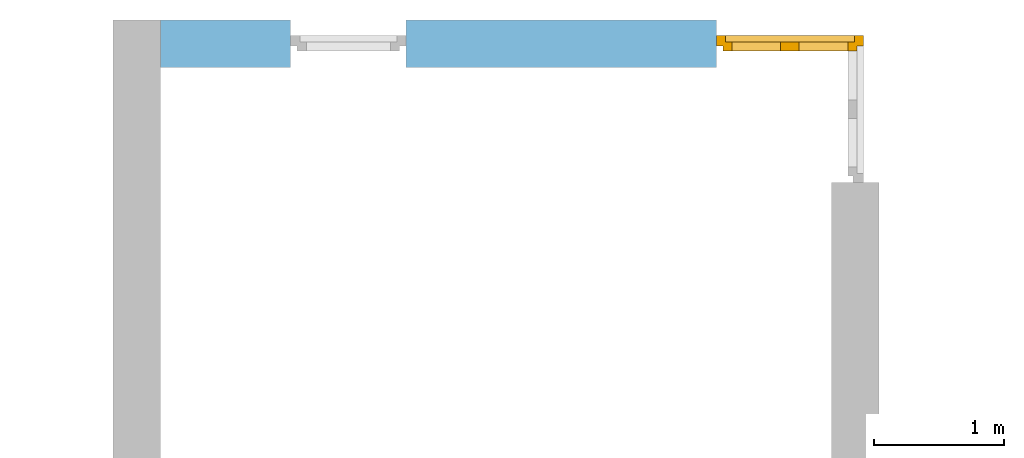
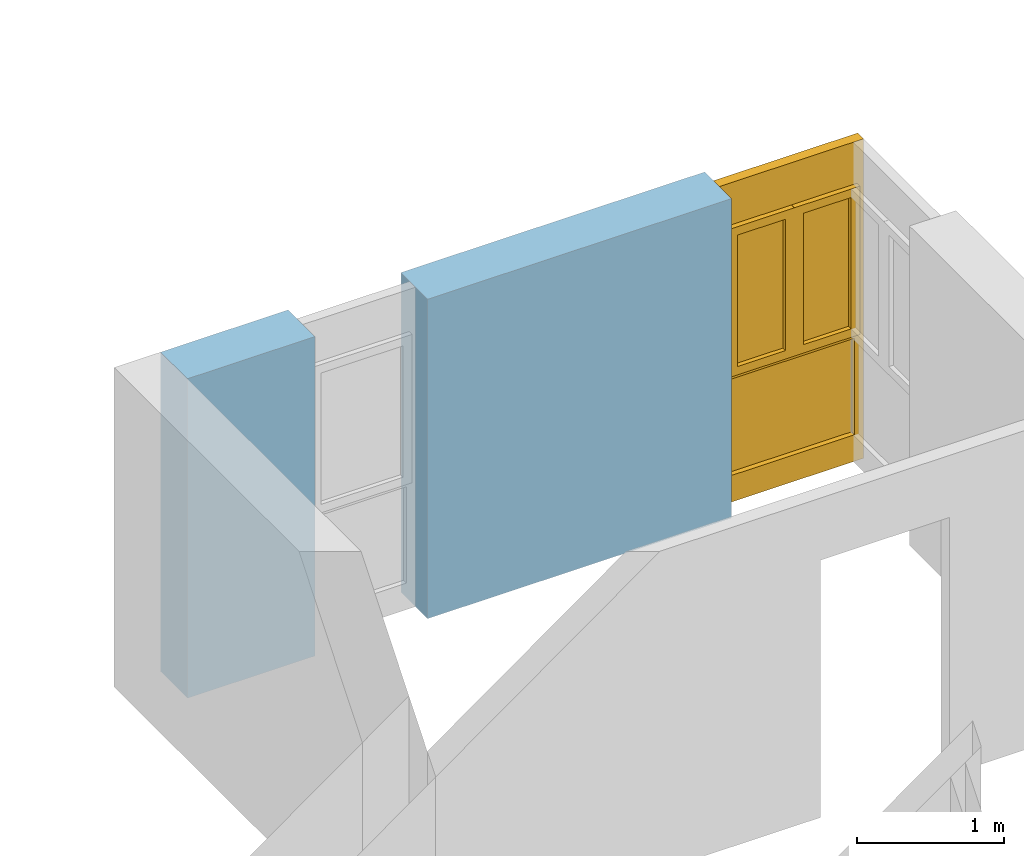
# One storey, part 19 of 42: 1 window, 2 openings, plus 1 element that does not belong to this part.
"""IFC2X3 building model written with IfcOpenShell, lengths in millimetres."""

import ifcopenshell
import ifcopenshell.guid

model = None  # the IFC model being written
_history = None  # IfcOwnerHistory: only IFC2X3 demands one
_inside = {}  # id of a spatial element -> (the spatial element, [elements in it])
_under = {}  # id of a project, library or spatial element -> (it, [spatial elements below it])
_declared = {}  # id of a project -> (the project, [libraries it declares])
_typed = {}  # id of a type object -> (the type object, [elements of that type])
_made_of = {}  # id of a material, layer set ... -> (it, [elements and type objects made of it])


def new_model(schema):
    """Start an empty IFC model of exactly this schema.

    Asked for "IFC4X3", IfcOpenShell would pick the latest addendum, in which some entities
    have other attributes; the version numbers below select the first issue.
    IFC2X3 requires an IfcOwnerHistory on every rooted entity: one is made here for all.
    """
    global model, _history
    if schema == "IFC4X3":
        model = ifcopenshell.file(schema_version=(4, 3, 0, 0))
    else:
        model = ifcopenshell.file(schema=schema)
    _inside.clear()
    _under.clear()
    _declared.clear()
    _typed.clear()
    _made_of.clear()
    _history = None
    if model.schema == "IFC2X3":
        org = make("IfcOrganization", Name="unknown")
        user = make(
            "IfcPersonAndOrganization",
            ThePerson=make("IfcPerson", FamilyName="unknown"),
            TheOrganization=org,
        )
        app = make(
            "IfcApplication",
            ApplicationDeveloper=org,
            Version="unknown",
            ApplicationFullName="unknown",
            ApplicationIdentifier="unknown",
        )
        _history = make(
            "IfcOwnerHistory",
            OwningUser=user,
            OwningApplication=app,
            ChangeAction="ADDED",
            CreationDate=0,
        )
    return model


def make(cls, **values):
    """One entity of the class cls with the attributes given. An attribute that is None is left unset."""
    return model.create_entity(
        cls, **{name: value for name, value in values.items() if value is not None}
    )


def entity(cls, *values):
    """Any entity or typed value of the class cls, its attributes in the order of the schema. None: left unset."""
    e = model.create_entity(cls)
    for i, value in enumerate(values):
        if value is not None:
            e[i] = value
    return e


def rooted(cls, **values):
    """An entity with a GlobalId (a new one), such as an element, a storey or a relation."""
    return make(cls, GlobalId=ifcopenshell.guid.new(), OwnerHistory=_history, **values)


def si_unit(unit_type, name, prefix=None):
    """IfcSIUnit, for example si_unit("LENGTHUNIT", "METRE", prefix="MILLI")."""
    return make("IfcSIUnit", UnitType=unit_type, Prefix=prefix, Name=name)


def converted_unit(unit_type, name, factor, base, dimensions=None, offset=None):
    """IfcConversionBasedUnit, such as the inch: factor (a typed value) times the base unit."""
    return make(
        "IfcConversionBasedUnit"
        if offset is None
        else "IfcConversionBasedUnitWithOffset",
        ConversionOffset=offset,
        Dimensions=None
        if dimensions is None
        else entity("IfcDimensionalExponents", *dimensions),
        UnitType=unit_type,
        Name=name,
        ConversionFactor=make(
            "IfcMeasureWithUnit", ValueComponent=factor, UnitComponent=base
        ),
    )


def assignment(units):
    """IfcUnitAssignment: the units of a project."""
    return None if units is None else make("IfcUnitAssignment", Units=units)


def point(xyz):
    """IfcCartesianPoint."""
    return None if xyz is None else make("IfcCartesianPoint", Coordinates=xyz)


def direction(xyz):
    """IfcDirection."""
    return None if xyz is None else make("IfcDirection", DirectionRatios=xyz)


def frame(location, z_axis=None, x_axis=None):
    """IfcAxis2Placement3D, a coordinate frame: its origin and axes. An axis left out is left unset."""
    return make(
        "IfcAxis2Placement3D",
        Location=point(location),
        Axis=direction(z_axis),
        RefDirection=direction(x_axis),
    )


def frame_2d(location, x_axis=None):
    """IfcAxis2Placement2D, a coordinate frame in the plane: its origin and x axis."""
    return make(
        "IfcAxis2Placement2D", Location=point(location), RefDirection=direction(x_axis)
    )


def origin():
    """The frame at (0, 0, 0) with its axes left unset."""
    return frame((0.0, 0.0, 0.0))


def origin_with_axes():
    """The frame at (0, 0, 0) with the z axis (0, 0, 1) and the x axis (1, 0, 0) written out."""
    return frame((0.0, 0.0, 0.0), z_axis=(0.0, 0.0, 1.0), x_axis=(1.0, 0.0, 0.0))


def place(relative_to, where):
    """IfcLocalPlacement: puts the frame where relative to a parent placement (None: the world)."""
    return make(
        "IfcLocalPlacement", PlacementRelTo=relative_to, RelativePlacement=where
    )


def context(
    kind, dimensions, precision=None, world=None, true_north=None, identifier=None
):
    """IfcGeometricRepresentationContext, for example the 3D "Model" context."""
    return make(
        "IfcGeometricRepresentationContext",
        ContextIdentifier=identifier,
        ContextType=kind,
        CoordinateSpaceDimension=dimensions,
        Precision=precision,
        WorldCoordinateSystem=world,
        TrueNorth=true_north,
    )


def subcontext(parent, identifier, kind, view, scale=None):
    """IfcGeometricRepresentationSubContext, for example "Body" below "Model"."""
    return make(
        "IfcGeometricRepresentationSubContext",
        ContextIdentifier=identifier,
        ContextType=kind,
        ParentContext=parent,
        TargetScale=scale,
        TargetView=view,
    )


def project(units=None, contexts=None):
    """IfcProject with its units and contexts."""
    return rooted(
        "IfcProject",
        Name="project",
        RepresentationContexts=contexts,
        UnitsInContext=assignment(units),
    )


def spatial(cls, under=None, at=None, **own):
    """A site, building, storey or space (cls), placed at a placement, below another one or the project."""
    s = rooted(cls, ObjectPlacement=at, **own)
    if under is not None:
        _under.setdefault(under.id(), (under, []))[1].append(s)
    return s


def profile(cls, at=None, kind="AREA", **sizes):
    """A parametric profile (cls). Its sizes go by their IFC names, for example OverallWidth=200.0."""
    return make(cls, ProfileType=kind, Position=at, **sizes)


def rectangle(**sizes):
    """IfcRectangleProfileDef."""
    return profile("IfcRectangleProfileDef", **sizes)


def extrude(swept, where, along, depth):
    """IfcExtrudedAreaSolid: the profile swept, set in the frame where, extruded along a direction by depth."""
    return make(
        "IfcExtrudedAreaSolid",
        SweptArea=swept,
        Position=where,
        ExtrudedDirection=direction(along),
        Depth=depth,
    )


def faces_of(points, faces, orient=None, outer=None):
    """IfcFace entities. A face is a list of loops; a loop is a list of indices into points, from 0.

    orient and outer hold one flag for each loop. By default every Orientation is true, the
    first loop of a face is its IfcFaceOuterBound and the others are IfcFaceBound.
    """
    made = []
    for i, loops in enumerate(faces):
        bounds = []
        for j, loop in enumerate(loops):
            is_outer = j == 0 if outer is None else outer[i][j]
            bounds.append(
                make(
                    "IfcFaceOuterBound" if is_outer else "IfcFaceBound",
                    Bound=make("IfcPolyLoop", Polygon=[points[k] for k in loop]),
                    Orientation=True if orient is None else orient[i][j],
                )
            )
        made.append(make("IfcFace", Bounds=bounds))
    return made


def faceted_brep(points, faces, orient=None, outer=None, voids=None):
    """IfcFacetedBrep: a solid bounded by flat faces; with voids (closed shells), ...WithVoids."""
    shared = [point(p) for p in points]
    hull = make("IfcClosedShell", CfsFaces=faces_of(shared, faces, orient, outer))
    if voids is None:
        return make("IfcFacetedBrep", Outer=hull)
    return make(
        "IfcFacetedBrepWithVoids",
        Outer=hull,
        Voids=[
            make(cls, CfsFaces=faces_of(shared, fs, o, b)) for cls, fs, o, b in voids
        ],
    )


def shape(context_of_items, identifier, shape_type, items):
    """IfcShapeRepresentation: the items that make up one representation, for example the "Body"."""
    return make(
        "IfcShapeRepresentation",
        ContextOfItems=context_of_items,
        RepresentationIdentifier=identifier,
        RepresentationType=shape_type,
        Items=items,
    )


def material(Name=None, Category=None):
    """IfcMaterial."""
    return make("IfcMaterial", Name=Name, Category=Category)


def layer(
    of_material, thickness, ventilated=None, Name=None, Category=None, Priority=None
):
    """IfcMaterialLayer: one layer of a wall or slab, of a material (None: an air gap)."""
    return make(
        "IfcMaterialLayer",
        Material=of_material,
        LayerThickness=thickness,
        IsVentilated=ventilated,
        Name=Name,
        Category=Category,
        Priority=Priority,
    )


def layer_set(layers, Name=None):
    """IfcMaterialLayerSet."""
    return make("IfcMaterialLayerSet", MaterialLayers=layers, LayerSetName=Name)


def layer_usage(for_layer_set, set_direction, sense, offset, extent=None):
    """IfcMaterialLayerSetUsage: how a layer set lies in its element."""
    return make(
        "IfcMaterialLayerSetUsage",
        ForLayerSet=for_layer_set,
        LayerSetDirection=set_direction,
        DirectionSense=sense,
        OffsetFromReferenceLine=offset,
        ReferenceExtent=extent,
    )


def made_of(thing, what):
    """Note that an element or type object is made of a material, layer set ...; save() writes the relation."""
    if what is not None:
        _made_of.setdefault(what.id(), (what, []))[1].append(thing)
    return thing


def type_object(cls, material=None, **own):
    """A type object (cls), such as IfcWallType, which elements share."""
    return made_of(rooted(cls, **own), material)


def element(
    cls,
    number,
    at=None,
    inside=None,
    cuts=None,
    type_object=None,
    material=None,
    context=None,
    identifier="Body",
    shape_type=None,
    held_by="IfcProductDefinitionShape",
    body=None,
    shapes=None,
    **own,
):
    """One element of the class cls, such as IfcWall. Its Tag is "e" and its number.

    at: its placement. inside: the storey or other place that contains it. cuts: it is an
    opening in that element (IfcRelVoidsElement). A single representation is given by context,
    identifier, shape_type and body (its items); several are given by shapes. held_by: the class
    of the entity that holds the representations. save() writes the other relations.
    """
    e = rooted(cls, Tag="e%d" % number, ObjectPlacement=at, **own)
    if body is not None:
        shapes = [shape(context, identifier, shape_type, body)]
    if shapes is not None:
        e.Representation = make(held_by, Representations=shapes)
    if inside is not None:
        _inside.setdefault(inside.id(), (inside, []))[1].append(e)
    if cuts is not None:
        rooted(
            "IfcRelVoidsElement", RelatingBuildingElement=cuts, RelatedOpeningElement=e
        )
    if type_object is not None:
        _typed.setdefault(type_object.id(), (type_object, []))[1].append(e)
    return made_of(e, material)


def fill(opening, filler):
    """IfcRelFillsElement: the door or window that sits in an opening."""
    return rooted(
        "IfcRelFillsElement",
        RelatingOpeningElement=opening,
        RelatedBuildingElement=filler,
    )


def aggregate(whole, parts):
    """IfcRelAggregates: a whole, such as a stair, and the parts it consists of."""
    return rooted("IfcRelAggregates", RelatingObject=whole, RelatedObjects=parts)


def save(model, path):
    """Write the relations noted so far, then the file.

    IfcRelAggregates (storeys below a building ...), IfcRelContainedInSpatialStructure (elements
    in a storey), IfcRelDefinesByType, IfcRelAssociatesMaterial and IfcRelDeclares: one each for
    every whole, place, type object, material and project.
    """
    for whole, parts in _under.values():
        aggregate(whole, parts)
    for where, things in _inside.values():
        rooted(
            "IfcRelContainedInSpatialStructure",
            RelatedElements=things,
            RelatingStructure=where,
        )
    for kind, things in _typed.values():
        rooted("IfcRelDefinesByType", RelatedObjects=things, RelatingType=kind)
    for what, things in _made_of.values():
        rooted("IfcRelAssociatesMaterial", RelatedObjects=things, RelatingMaterial=what)
    for by, libraries in _declared.values():
        rooted("IfcRelDeclares", RelatingContext=by, RelatedDefinitions=libraries)
    model.write(path)


model = new_model("IFC2X3")

# Units and contexts
model_context = context("Model", 3, precision=1e-05, world=origin())
body_context = subcontext(model_context, "Body", "Model", "MODEL_VIEW")
ifc_project = project(units=[si_unit("LENGTHUNIT", "METRE", prefix="MILLI"), converted_unit("PLANEANGLEUNIT", "DEGREE", entity("IfcPlaneAngleMeasure", 0.0174532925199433), si_unit("PLANEANGLEUNIT", "RADIAN"), dimensions=[0, 0, 0, 0, 0, 0, 0]), si_unit("AREAUNIT", "SQUARE_METRE"), si_unit("VOLUMEUNIT", "CUBIC_METRE")], contexts=[model_context])

# Building, storey
building_placement = place(None, origin())
building = spatial("IfcBuilding", under=ifc_project, at=building_placement, Name="Gebäude", CompositionType="ELEMENT")
storey_placement = place(building_placement, frame((0.0, 0.0, 2730.0), z_axis=(0.0, 0.0, 1.0), x_axis=(1.0, 0.0, 0.0)))
storey = spatial("IfcBuildingStorey", under=building, at=storey_placement, Name="OG.- Grundriss", CompositionType="ELEMENT", Elevation=2730.0)

# Wall, openings, window
ifc_material_1 = material(Name="Poroton")
ifc_layer = layer(ifc_material_1, 365.0000000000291)
ifc_layer_set = layer_set([ifc_layer])
ifc_layer_usage = layer_usage(ifc_layer_set, "AXIS2", "POSITIVE", 0.0)
wall_placement = place(storey_placement, frame((154222.7928067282, 139284.8877324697, 0.0), z_axis=(0.0, 0.0, 1.0), x_axis=(0.9999999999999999, 0.0, 0.0)))
wall = element("IfcWallStandardCase", 1, at=wall_placement, inside=storey, material=ifc_layer_usage, Name="<Unnamed Element>", context=body_context, shape_type="SweptSolid", body=[
    extrude(rectangle(XDim=5520.000000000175, YDim=365.0000000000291, at=frame_2d((2760.000000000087, 182.5000000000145), x_axis=(1.0, 0.0))), origin_with_axes(), (0.0, 0.0, 1.0), 2650.0),
])
opening_1_placement = place(wall_placement, frame((4270.000000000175, 0.0, 0.0), z_axis=(0.0, 1.0, 0.0), x_axis=(0.0, 0.0, 1.0)))
opening_1 = element("IfcOpeningElement", 2, at=opening_1_placement, cuts=wall, Name="Fensteröffnung", ObjectType="Opening", context=body_context, shape_type="Brep", body=[
    faceted_brep([(0.0, 884.9999999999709, -884.9999999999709), (0.0, 1250.0, -884.9999999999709), (0.0, 1250.0, 365.0000000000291), (0.0, 0.0, 365.0000000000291), (0.0, 0.0, 0.0), (0.0, 884.9999999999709, 0.0), (2650.0, 1250.0, -884.9999999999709), (2650.0, 884.9999999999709, -884.9999999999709), (2650.0, 884.9999999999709, 0.0), (2650.0, 0.0, 0.0), (2650.0, 0.0, 365.0000000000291), (2650.0, 1250.0, 365.0000000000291), (0.0, 0.0, 365.0000000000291), (0.0, 1250.0, 365.0000000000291), (2650.0, 1250.0, 365.0000000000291), (2650.0, 0.0, 365.0000000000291), (0.0, 0.0, 0.0), (0.0, 0.0, 365.0000000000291), (2650.0, 0.0, 365.0000000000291), (2650.0, 0.0, 0.0), (0.0, 884.9999999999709, 0.0), (0.0, 0.0, 0.0), (2650.0, 0.0, 0.0), (2650.0, 884.9999999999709, 0.0), (0.0, 1250.0, -884.9999999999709), (0.0, 884.9999999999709, -884.9999999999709), (2650.0, 884.9999999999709, -884.9999999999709), (2650.0, 1250.0, -884.9999999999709), (0.0, 1250.0, 365.0000000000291), (0.0, 1250.0, -884.9999999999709), (2650.0, 1250.0, -884.9999999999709), (2650.0, 1250.0, 365.0000000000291), (0.0, 884.9999999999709, -884.9999999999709), (0.0, 884.9999999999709, 0.0), (2650.0, 884.9999999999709, 0.0), (2650.0, 884.9999999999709, -884.9999999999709)], [[[0, 1, 2, 3, 4, 5]], [[6, 7, 8, 9, 10, 11]], [[12, 13, 14, 15]], [[16, 17, 18, 19]], [[20, 21, 22, 23]], [[24, 25, 26, 27]], [[28, 29, 30, 31]], [[32, 33, 34, 35]]], orient=[[False], [False], [False], [False], [False], [False], [False], [False]]),
])
opening_2_placement = place(wall_placement, frame((999.9999999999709, 0.0, 0.0), z_axis=(0.0, 1.0, 0.0), x_axis=(0.0, 0.0, 1.0)))
element("IfcOpeningElement", 3, at=opening_2_placement, cuts=wall, Name="Fensteröffnung", ObjectType="Opening", context=body_context, shape_type="SweptSolid", body=[
    extrude(rectangle(XDim=2650.0, YDim=885.0, at=frame_2d((1325.0, 442.5), x_axis=(1.0, 0.0))), origin_with_axes(), (0.0, 0.0, 1.0), 365.0000000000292),
])
ifc_material_2 = material()
window_style = type_object("IfcWindowStyle", Name="Fenster", ConstructionType="NOTDEFINED", OperationType="USERDEFINED", ParameterTakesPrecedence=False, Sizeable=False)
window_placement = place(opening_1_placement, frame((0.0, 0.0, 0.0), z_axis=(1.0, 0.0, 0.0), x_axis=(0.0, 1.0, 0.0)))
window = element("IfcWindow", 4, at=window_placement, inside=storey, type_object=window_style, material=ifc_material_2, Name="Fenster", OverallHeight=2650.0, OverallWidth=1067.5, context=body_context, shape_type="Brep", body=[
    faceted_brep([(1130.0, 165.0000000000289, 2650.0), (1130.0, 165.0000000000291, -2.449293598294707e-15), (1060.0, 165.0000000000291, -2.449293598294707e-15), (1060.0, 165.000000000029, 2650.0), (1130.0, 245.0000000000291, 2.449293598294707e-15), (1130.0, 245.0000000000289, 2650.0), (1060.0, 245.000000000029, 2650.0), (1060.0, 245.0000000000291, 2.449293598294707e-15), (1130.0, 165.0000000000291, -2.449293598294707e-15), (1130.0, 165.0000000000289, 2650.0), (1130.0, 245.0000000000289, 2650.0), (1130.0, 245.0000000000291, 2.449293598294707e-15), (1060.0, 165.0000000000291, -2.449293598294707e-15), (1130.0, 165.0000000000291, -2.449293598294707e-15), (1130.0, 245.0000000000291, 2.449293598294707e-15), (1060.0, 245.0000000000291, 2.449293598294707e-15), (1060.0, 165.000000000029, 2650.0), (1060.0, 165.0000000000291, -2.449293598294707e-15), (1060.0, 245.0000000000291, 2.449293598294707e-15), (1060.0, 245.000000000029, 2650.0), (1130.0, 165.0000000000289, 2650.0), (1060.0, 165.000000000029, 2650.0), (1060.0, 245.000000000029, 2650.0), (1130.0, 245.0000000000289, 2650.0)], [[[0, 1, 2, 3]], [[4, 5, 6, 7]], [[8, 9, 10, 11]], [[12, 13, 14, 15]], [[16, 17, 18, 19]], [[20, 21, 22, 23]]], orient=[[False], [False], [False], [False], [False], [False]]),
    faceted_brep([(70.00000000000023, 165.0000000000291, 2650.0), (70.00000000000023, 165.0000000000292, -2.449293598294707e-15), (2.273736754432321e-13, 165.0000000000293, -2.449293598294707e-15), (2.273736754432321e-13, 165.0000000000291, 2650.0), (70.00000000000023, 245.0000000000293, 2.449293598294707e-15), (70.00000000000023, 245.0000000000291, 2650.0), (2.273736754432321e-13, 245.0000000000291, 2650.0), (2.273736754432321e-13, 245.0000000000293, 2.449293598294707e-15), (70.00000000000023, 165.0000000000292, -2.449293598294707e-15), (70.00000000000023, 165.0000000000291, 2650.0), (70.00000000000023, 245.0000000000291, 2650.0), (70.00000000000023, 245.0000000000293, 2.449293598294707e-15), (2.273736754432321e-13, 165.0000000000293, -2.449293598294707e-15), (70.00000000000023, 165.0000000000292, -2.449293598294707e-15), (70.00000000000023, 245.0000000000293, 2.449293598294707e-15), (2.273736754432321e-13, 245.0000000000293, 2.449293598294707e-15), (2.273736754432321e-13, 165.0000000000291, 2650.0), (2.273736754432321e-13, 165.0000000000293, -2.449293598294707e-15), (2.273736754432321e-13, 245.0000000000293, 2.449293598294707e-15), (2.273736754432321e-13, 245.0000000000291, 2650.0), (70.00000000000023, 165.0000000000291, 2650.0), (2.273736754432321e-13, 165.0000000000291, 2650.0), (2.273736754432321e-13, 245.0000000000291, 2650.0), (70.00000000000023, 245.0000000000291, 2650.0)], [[[0, 1, 2, 3]], [[4, 5, 6, 7]], [[8, 9, 10, 11]], [[12, 13, 14, 15]], [[16, 17, 18, 19]], [[20, 21, 22, 23]]], orient=[[False], [False], [False], [False], [False], [False]]),
    faceted_brep([(1060.0, 165.0000000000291, 220.0), (1060.0, 165.0000000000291, -2.449293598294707e-15), (70.00000000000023, 165.0000000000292, -2.449293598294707e-15), (70.00000000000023, 165.0000000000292, 220.0), (1060.0, 245.0000000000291, 2.449293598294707e-15), (1060.0, 245.0000000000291, 220.0), (70.00000000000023, 245.0000000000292, 220.0), (70.00000000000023, 245.0000000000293, 2.449293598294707e-15), (1060.0, 165.0000000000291, -2.449293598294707e-15), (1060.0, 165.0000000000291, 220.0), (1060.0, 245.0000000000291, 220.0), (1060.0, 245.0000000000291, 2.449293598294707e-15), (70.00000000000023, 165.0000000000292, -2.449293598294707e-15), (1060.0, 165.0000000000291, -2.449293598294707e-15), (1060.0, 245.0000000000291, 2.449293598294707e-15), (70.00000000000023, 245.0000000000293, 2.449293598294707e-15), (70.00000000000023, 165.0000000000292, 220.0), (70.00000000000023, 165.0000000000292, -2.449293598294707e-15), (70.00000000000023, 245.0000000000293, 2.449293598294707e-15), (70.00000000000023, 245.0000000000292, 220.0), (1060.0, 165.0000000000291, 220.0), (70.00000000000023, 165.0000000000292, 220.0), (70.00000000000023, 245.0000000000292, 220.0), (1060.0, 245.0000000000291, 220.0)], [[[0, 1, 2, 3]], [[4, 5, 6, 7]], [[8, 9, 10, 11]], [[12, 13, 14, 15]], [[16, 17, 18, 19]], [[20, 21, 22, 23]]], orient=[[False], [False], [False], [False], [False], [False]]),
    faceted_brep([(1060.0, 165.0000000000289, 2650.0), (1060.0, 165.000000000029, 2280.0), (70.00000000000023, 165.0000000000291, 2280.0), (70.00000000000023, 165.0000000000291, 2650.0), (1060.0, 245.000000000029, 2280.0), (1060.0, 245.0000000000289, 2650.0), (70.00000000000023, 245.0000000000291, 2650.0), (70.00000000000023, 245.0000000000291, 2280.0), (1060.0, 165.000000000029, 2280.0), (1060.0, 165.0000000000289, 2650.0), (1060.0, 245.0000000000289, 2650.0), (1060.0, 245.000000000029, 2280.0), (70.00000000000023, 165.0000000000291, 2280.0), (1060.0, 165.000000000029, 2280.0), (1060.0, 245.000000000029, 2280.0), (70.00000000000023, 245.0000000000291, 2280.0), (70.00000000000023, 165.0000000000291, 2650.0), (70.00000000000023, 165.0000000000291, 2280.0), (70.00000000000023, 245.0000000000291, 2280.0), (70.00000000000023, 245.0000000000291, 2650.0), (1060.0, 165.0000000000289, 2650.0), (70.00000000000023, 165.0000000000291, 2650.0), (70.00000000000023, 245.0000000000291, 2650.0), (1060.0, 245.0000000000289, 2650.0)], [[[0, 1, 2, 3]], [[4, 5, 6, 7]], [[8, 9, 10, 11]], [[12, 13, 14, 15]], [[16, 17, 18, 19]], [[20, 21, 22, 23]]], orient=[[False], [False], [False], [False], [False], [False]]),
    faceted_brep([(1060.0, 165.0000000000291, 1090.0), (1060.0, 165.0000000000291, 1020.0), (70.00000000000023, 165.0000000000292, 1020.0), (70.00000000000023, 165.0000000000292, 1090.0), (1060.0, 245.0000000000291, 1020.0), (1060.0, 245.0000000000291, 1090.0), (70.00000000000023, 245.0000000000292, 1090.0), (70.00000000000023, 245.0000000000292, 1020.0), (1060.0, 165.0000000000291, 1020.0), (1060.0, 165.0000000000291, 1090.0), (1060.0, 245.0000000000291, 1090.0), (1060.0, 245.0000000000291, 1020.0), (70.00000000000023, 165.0000000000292, 1020.0), (1060.0, 165.0000000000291, 1020.0), (1060.0, 245.0000000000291, 1020.0), (70.00000000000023, 245.0000000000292, 1020.0), (70.00000000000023, 165.0000000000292, 1090.0), (70.00000000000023, 165.0000000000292, 1020.0), (70.00000000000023, 245.0000000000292, 1020.0), (70.00000000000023, 245.0000000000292, 1090.0), (1060.0, 165.0000000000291, 1090.0), (70.00000000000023, 165.0000000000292, 1090.0), (70.00000000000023, 245.0000000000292, 1090.0), (1060.0, 245.0000000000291, 1090.0)], [[[0, 1, 2, 3]], [[4, 5, 6, 7]], [[8, 9, 10, 11]], [[12, 13, 14, 15]], [[16, 17, 18, 19]], [[20, 21, 22, 23]]], orient=[[False], [False], [False], [False], [False], [False]]),
    faceted_brep([(1060.0, 205.0000000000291, 220.0), (70.00000000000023, 205.0000000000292, 220.0), (70.00000000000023, 205.0000000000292, 1020.0), (1060.0, 205.0000000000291, 1020.0), (1060.0, 206.0000000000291, 220.0), (1060.0, 206.0000000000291, 1020.0), (70.00000000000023, 206.0000000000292, 1020.0), (70.00000000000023, 206.0000000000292, 220.0), (1060.0, 205.0000000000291, 220.0), (1060.0, 206.0000000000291, 220.0), (70.00000000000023, 206.0000000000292, 220.0), (70.00000000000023, 205.0000000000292, 220.0), (70.00000000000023, 205.0000000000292, 220.0), (70.00000000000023, 206.0000000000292, 220.0), (70.00000000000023, 206.0000000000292, 1020.0), (70.00000000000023, 205.0000000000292, 1020.0), (70.00000000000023, 205.0000000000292, 1020.0), (70.00000000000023, 206.0000000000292, 1020.0), (1060.0, 206.0000000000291, 1020.0), (1060.0, 205.0000000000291, 1020.0), (1060.0, 205.0000000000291, 1020.0), (1060.0, 206.0000000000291, 1020.0), (1060.0, 206.0000000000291, 220.0), (1060.0, 205.0000000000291, 220.0)], [[[0, 1, 2, 3]], [[4, 5, 6, 7]], [[8, 9, 10, 11]], [[12, 13, 14, 15]], [[16, 17, 18, 19]], [[20, 21, 22, 23]]], orient=[[False], [False], [False], [False], [False], [False]]),
    faceted_brep([(1080.0, 125.000000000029, 2300.0), (1080.0, 125.0000000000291, 1070.0), (1010.0, 125.0000000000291, 1070.0), (1010.0, 125.000000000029, 2300.0), (1080.0, 195.0000000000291, 1070.0), (1080.0, 195.000000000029, 2300.0), (1010.0, 195.000000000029, 2300.0), (1010.0, 195.0000000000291, 1070.0), (1080.0, 125.0000000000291, 1070.0), (1080.0, 125.000000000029, 2300.0), (1080.0, 195.000000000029, 2300.0), (1080.0, 195.0000000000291, 1070.0), (1010.0, 125.0000000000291, 1070.0), (1080.0, 125.0000000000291, 1070.0), (1080.0, 195.0000000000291, 1070.0), (1010.0, 195.0000000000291, 1070.0), (1010.0, 125.000000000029, 2300.0), (1010.0, 125.0000000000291, 1070.0), (1010.0, 195.0000000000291, 1070.0), (1010.0, 195.000000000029, 2300.0), (1080.0, 125.000000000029, 2300.0), (1010.0, 125.000000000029, 2300.0), (1010.0, 195.000000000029, 2300.0), (1080.0, 195.000000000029, 2300.0)], [[[0, 1, 2, 3]], [[4, 5, 6, 7]], [[8, 9, 10, 11]], [[12, 13, 14, 15]], [[16, 17, 18, 19]], [[20, 21, 22, 23]]], orient=[[False], [False], [False], [False], [False], [False]]),
    faceted_brep([(635.5000000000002, 125.000000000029, 2300.0), (635.5000000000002, 125.0000000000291, 1070.0), (565.5000000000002, 125.0000000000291, 1070.0), (565.5000000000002, 125.0000000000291, 2300.0), (635.5000000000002, 195.0000000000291, 1070.0), (635.5000000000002, 195.0000000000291, 2300.0), (565.5000000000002, 195.0000000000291, 2300.0), (565.5000000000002, 195.0000000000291, 1070.0), (635.5000000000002, 125.0000000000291, 1070.0), (635.5000000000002, 125.000000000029, 2300.0), (635.5000000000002, 195.0000000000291, 2300.0), (635.5000000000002, 195.0000000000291, 1070.0), (565.5000000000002, 125.0000000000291, 1070.0), (635.5000000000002, 125.0000000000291, 1070.0), (635.5000000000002, 195.0000000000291, 1070.0), (565.5000000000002, 195.0000000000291, 1070.0), (565.5000000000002, 125.0000000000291, 2300.0), (565.5000000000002, 125.0000000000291, 1070.0), (565.5000000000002, 195.0000000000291, 1070.0), (565.5000000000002, 195.0000000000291, 2300.0), (635.5000000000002, 125.000000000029, 2300.0), (565.5000000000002, 125.0000000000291, 2300.0), (565.5000000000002, 195.0000000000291, 2300.0), (635.5000000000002, 195.0000000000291, 2300.0)], [[[0, 1, 2, 3]], [[4, 5, 6, 7]], [[8, 9, 10, 11]], [[12, 13, 14, 15]], [[16, 17, 18, 19]], [[20, 21, 22, 23]]], orient=[[False], [False], [False], [False], [False], [False]]),
    faceted_brep([(1010.0, 125.0000000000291, 1140.0), (1010.0, 125.0000000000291, 1070.0), (635.5000000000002, 125.0000000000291, 1070.0), (635.5000000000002, 125.0000000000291, 1140.0), (1010.0, 195.0000000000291, 1070.0), (1010.0, 195.0000000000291, 1140.0), (635.5000000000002, 195.0000000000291, 1140.0), (635.5000000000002, 195.0000000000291, 1070.0), (1010.0, 125.0000000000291, 1070.0), (1010.0, 125.0000000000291, 1140.0), (1010.0, 195.0000000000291, 1140.0), (1010.0, 195.0000000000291, 1070.0), (635.5000000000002, 125.0000000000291, 1070.0), (1010.0, 125.0000000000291, 1070.0), (1010.0, 195.0000000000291, 1070.0), (635.5000000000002, 195.0000000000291, 1070.0), (635.5000000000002, 125.0000000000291, 1140.0), (635.5000000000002, 125.0000000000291, 1070.0), (635.5000000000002, 195.0000000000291, 1070.0), (635.5000000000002, 195.0000000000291, 1140.0), (1010.0, 125.0000000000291, 1140.0), (635.5000000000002, 125.0000000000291, 1140.0), (635.5000000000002, 195.0000000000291, 1140.0), (1010.0, 195.0000000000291, 1140.0)], [[[0, 1, 2, 3]], [[4, 5, 6, 7]], [[8, 9, 10, 11]], [[12, 13, 14, 15]], [[16, 17, 18, 19]], [[20, 21, 22, 23]]], orient=[[False], [False], [False], [False], [False], [False]]),
    faceted_brep([(1010.0, 125.000000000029, 2300.0), (1010.0, 125.000000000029, 2230.0), (635.5000000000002, 125.000000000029, 2230.0), (635.5000000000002, 125.000000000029, 2300.0), (1010.0, 195.000000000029, 2230.0), (1010.0, 195.000000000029, 2300.0), (635.5000000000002, 195.0000000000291, 2300.0), (635.5000000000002, 195.0000000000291, 2230.0), (1010.0, 125.000000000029, 2230.0), (1010.0, 125.000000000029, 2300.0), (1010.0, 195.000000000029, 2300.0), (1010.0, 195.000000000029, 2230.0), (635.5000000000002, 125.000000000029, 2230.0), (1010.0, 125.000000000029, 2230.0), (1010.0, 195.000000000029, 2230.0), (635.5000000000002, 195.0000000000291, 2230.0), (635.5000000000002, 125.000000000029, 2300.0), (635.5000000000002, 125.000000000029, 2230.0), (635.5000000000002, 195.0000000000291, 2230.0), (635.5000000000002, 195.0000000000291, 2300.0), (1010.0, 125.000000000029, 2300.0), (635.5000000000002, 125.000000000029, 2300.0), (635.5000000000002, 195.0000000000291, 2300.0), (1010.0, 195.000000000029, 2300.0)], [[[0, 1, 2, 3]], [[4, 5, 6, 7]], [[8, 9, 10, 11]], [[12, 13, 14, 15]], [[16, 17, 18, 19]], [[20, 21, 22, 23]]], orient=[[False], [False], [False], [False], [False], [False]]),
    faceted_brep([(564.5000000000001, 125.0000000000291, 2300.0), (564.5000000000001, 125.0000000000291, 1070.0), (494.5000000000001, 125.0000000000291, 1070.0), (494.5000000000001, 125.0000000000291, 2300.0), (564.5000000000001, 195.0000000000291, 1070.0), (564.5000000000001, 195.0000000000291, 2300.0), (494.5000000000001, 195.0000000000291, 2300.0), (494.5000000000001, 195.0000000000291, 1070.0), (564.5000000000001, 125.0000000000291, 1070.0), (564.5000000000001, 125.0000000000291, 2300.0), (564.5000000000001, 195.0000000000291, 2300.0), (564.5000000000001, 195.0000000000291, 1070.0), (494.5000000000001, 125.0000000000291, 1070.0), (564.5000000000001, 125.0000000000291, 1070.0), (564.5000000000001, 195.0000000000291, 1070.0), (494.5000000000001, 195.0000000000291, 1070.0), (494.5000000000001, 125.0000000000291, 2300.0), (494.5000000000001, 125.0000000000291, 1070.0), (494.5000000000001, 195.0000000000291, 1070.0), (494.5000000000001, 195.0000000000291, 2300.0), (564.5000000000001, 125.0000000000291, 2300.0), (494.5000000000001, 125.0000000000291, 2300.0), (494.5000000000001, 195.0000000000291, 2300.0), (564.5000000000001, 195.0000000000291, 2300.0)], [[[0, 1, 2, 3]], [[4, 5, 6, 7]], [[8, 9, 10, 11]], [[12, 13, 14, 15]], [[16, 17, 18, 19]], [[20, 21, 22, 23]]], orient=[[False], [False], [False], [False], [False], [False]]),
    faceted_brep([(120.0000000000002, 125.0000000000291, 2300.0), (120.0000000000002, 125.0000000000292, 1070.0), (50.00000000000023, 125.0000000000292, 1070.0), (50.00000000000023, 125.0000000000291, 2300.0), (120.0000000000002, 195.0000000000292, 1070.0), (120.0000000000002, 195.0000000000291, 2300.0), (50.00000000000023, 195.0000000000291, 2300.0), (50.00000000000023, 195.0000000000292, 1070.0), (120.0000000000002, 125.0000000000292, 1070.0), (120.0000000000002, 125.0000000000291, 2300.0), (120.0000000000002, 195.0000000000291, 2300.0), (120.0000000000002, 195.0000000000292, 1070.0), (50.00000000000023, 125.0000000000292, 1070.0), (120.0000000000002, 125.0000000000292, 1070.0), (120.0000000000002, 195.0000000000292, 1070.0), (50.00000000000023, 195.0000000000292, 1070.0), (50.00000000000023, 125.0000000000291, 2300.0), (50.00000000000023, 125.0000000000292, 1070.0), (50.00000000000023, 195.0000000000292, 1070.0), (50.00000000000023, 195.0000000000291, 2300.0), (120.0000000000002, 125.0000000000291, 2300.0), (50.00000000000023, 125.0000000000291, 2300.0), (50.00000000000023, 195.0000000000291, 2300.0), (120.0000000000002, 195.0000000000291, 2300.0)], [[[0, 1, 2, 3]], [[4, 5, 6, 7]], [[8, 9, 10, 11]], [[12, 13, 14, 15]], [[16, 17, 18, 19]], [[20, 21, 22, 23]]], orient=[[False], [False], [False], [False], [False], [False]]),
    faceted_brep([(494.5000000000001, 125.0000000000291, 1140.0), (494.5000000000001, 125.0000000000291, 1070.0), (120.0000000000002, 125.0000000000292, 1070.0), (120.0000000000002, 125.0000000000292, 1140.0), (494.5000000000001, 195.0000000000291, 1070.0), (494.5000000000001, 195.0000000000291, 1140.0), (120.0000000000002, 195.0000000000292, 1140.0), (120.0000000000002, 195.0000000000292, 1070.0), (494.5000000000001, 125.0000000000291, 1070.0), (494.5000000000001, 125.0000000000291, 1140.0), (494.5000000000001, 195.0000000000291, 1140.0), (494.5000000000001, 195.0000000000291, 1070.0), (120.0000000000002, 125.0000000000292, 1070.0), (494.5000000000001, 125.0000000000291, 1070.0), (494.5000000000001, 195.0000000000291, 1070.0), (120.0000000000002, 195.0000000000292, 1070.0), (120.0000000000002, 125.0000000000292, 1140.0), (120.0000000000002, 125.0000000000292, 1070.0), (120.0000000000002, 195.0000000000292, 1070.0), (120.0000000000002, 195.0000000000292, 1140.0), (494.5000000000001, 125.0000000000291, 1140.0), (120.0000000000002, 125.0000000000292, 1140.0), (120.0000000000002, 195.0000000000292, 1140.0), (494.5000000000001, 195.0000000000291, 1140.0)], [[[0, 1, 2, 3]], [[4, 5, 6, 7]], [[8, 9, 10, 11]], [[12, 13, 14, 15]], [[16, 17, 18, 19]], [[20, 21, 22, 23]]], orient=[[False], [False], [False], [False], [False], [False]]),
    faceted_brep([(494.5000000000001, 125.0000000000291, 2300.0), (494.5000000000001, 125.0000000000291, 2230.0), (120.0000000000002, 125.0000000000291, 2230.0), (120.0000000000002, 125.0000000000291, 2300.0), (494.5000000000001, 195.0000000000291, 2230.0), (494.5000000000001, 195.0000000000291, 2300.0), (120.0000000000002, 195.0000000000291, 2300.0), (120.0000000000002, 195.0000000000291, 2230.0), (494.5000000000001, 125.0000000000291, 2230.0), (494.5000000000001, 125.0000000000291, 2300.0), (494.5000000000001, 195.0000000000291, 2300.0), (494.5000000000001, 195.0000000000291, 2230.0), (120.0000000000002, 125.0000000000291, 2230.0), (494.5000000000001, 125.0000000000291, 2230.0), (494.5000000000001, 195.0000000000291, 2230.0), (120.0000000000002, 195.0000000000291, 2230.0), (120.0000000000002, 125.0000000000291, 2300.0), (120.0000000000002, 125.0000000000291, 2230.0), (120.0000000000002, 195.0000000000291, 2230.0), (120.0000000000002, 195.0000000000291, 2300.0), (494.5000000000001, 125.0000000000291, 2300.0), (120.0000000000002, 125.0000000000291, 2300.0), (120.0000000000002, 195.0000000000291, 2300.0), (494.5000000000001, 195.0000000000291, 2300.0)], [[[0, 1, 2, 3]], [[4, 5, 6, 7]], [[8, 9, 10, 11]], [[12, 13, 14, 15]], [[16, 17, 18, 19]], [[20, 21, 22, 23]]], orient=[[False], [False], [False], [False], [False], [False]]),
    faceted_brep([(1010.0, 160.0000000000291, 1140.0), (635.5000000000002, 160.0000000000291, 1140.0), (635.5000000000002, 160.000000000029, 2230.0), (1010.0, 160.000000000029, 2230.0), (1010.0, 161.0000000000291, 1140.0), (1010.0, 161.000000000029, 2230.0), (635.5000000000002, 161.000000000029, 2230.0), (635.5000000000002, 161.0000000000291, 1140.0), (1010.0, 160.0000000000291, 1140.0), (1010.0, 161.0000000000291, 1140.0), (635.5000000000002, 161.0000000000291, 1140.0), (635.5000000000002, 160.0000000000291, 1140.0), (635.5000000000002, 160.0000000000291, 1140.0), (635.5000000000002, 161.0000000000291, 1140.0), (635.5000000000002, 161.000000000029, 2230.0), (635.5000000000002, 160.000000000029, 2230.0), (635.5000000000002, 160.000000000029, 2230.0), (635.5000000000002, 161.000000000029, 2230.0), (1010.0, 161.000000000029, 2230.0), (1010.0, 160.000000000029, 2230.0), (1010.0, 160.000000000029, 2230.0), (1010.0, 161.000000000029, 2230.0), (1010.0, 161.0000000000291, 1140.0), (1010.0, 160.0000000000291, 1140.0)], [[[0, 1, 2, 3]], [[4, 5, 6, 7]], [[8, 9, 10, 11]], [[12, 13, 14, 15]], [[16, 17, 18, 19]], [[20, 21, 22, 23]]], orient=[[False], [False], [False], [False], [False], [False]]),
    faceted_brep([(494.5, 160.0000000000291, 1140.0), (120.0000000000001, 160.0000000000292, 1140.0), (120.0000000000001, 160.0000000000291, 2230.0), (494.5, 160.000000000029, 2230.0), (494.5, 161.0000000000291, 1140.0), (494.5, 161.000000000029, 2230.0), (120.0000000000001, 161.0000000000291, 2230.0), (120.0000000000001, 161.0000000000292, 1140.0), (494.5, 160.0000000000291, 1140.0), (494.5, 161.0000000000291, 1140.0), (120.0000000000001, 161.0000000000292, 1140.0), (120.0000000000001, 160.0000000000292, 1140.0), (120.0000000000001, 160.0000000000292, 1140.0), (120.0000000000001, 161.0000000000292, 1140.0), (120.0000000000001, 161.0000000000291, 2230.0), (120.0000000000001, 160.0000000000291, 2230.0), (120.0000000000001, 160.0000000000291, 2230.0), (120.0000000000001, 161.0000000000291, 2230.0), (494.5, 161.000000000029, 2230.0), (494.5, 160.000000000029, 2230.0), (494.5, 160.000000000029, 2230.0), (494.5, 161.000000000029, 2230.0), (494.5, 161.0000000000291, 1140.0), (494.5, 160.0000000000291, 1140.0)], [[[0, 1, 2, 3]], [[4, 5, 6, 7]], [[8, 9, 10, 11]], [[12, 13, 14, 15]], [[16, 17, 18, 19]], [[20, 21, 22, 23]]], orient=[[False], [False], [False], [False], [False], [False]]),
])
fill(opening_1, window)

save(model, "model.ifc")
